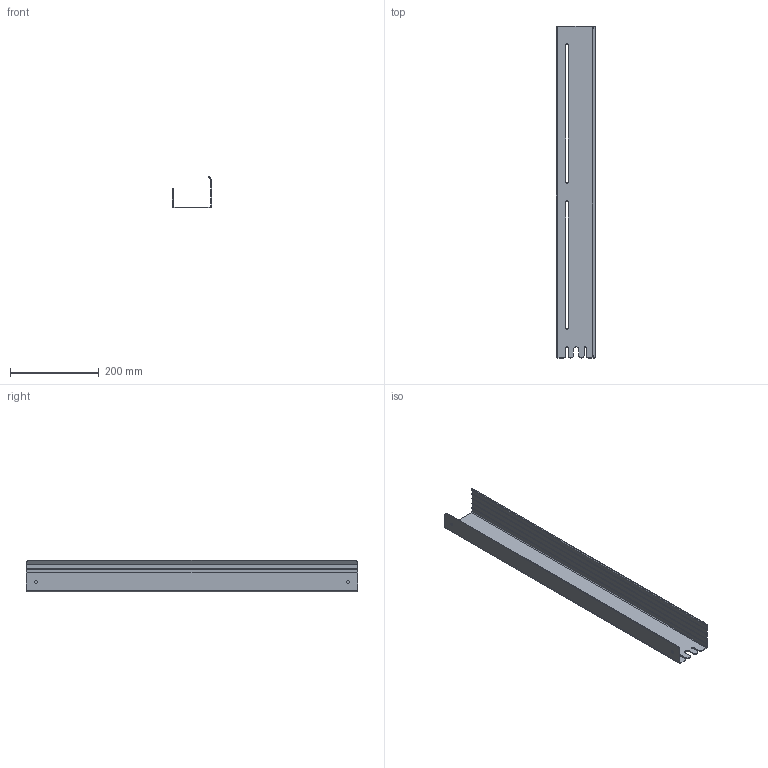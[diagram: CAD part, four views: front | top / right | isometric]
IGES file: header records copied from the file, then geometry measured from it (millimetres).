
Start section: IGES file generated by C3D Converter 1.5 translator by C3D Labs., translator version IGESOUT-5.1.
Global section: file name: D:\×åðòåæè èçäåëèé Âàííà 2023\Ïîëêè Simple Íîâûå\3D\×åðòåæè 22.07.2023\3D\S²MPLE_SHELF_750.igs; preprocessor: 1.0; author: a.kalenyk83@gmail.com; organization: unknown; date: -17770622:112141; units: millimetre
Bounding box: 88.5 x 750 x 72.1 mm (x, y, z)
Volume: 221592.6 mm3; surface area: 300368.2 mm2
Topology: 1 solids, 1 shells, 92 faces, 246 edges, 156 vertices
Faces by surface type: revolution 49, bspline 43
